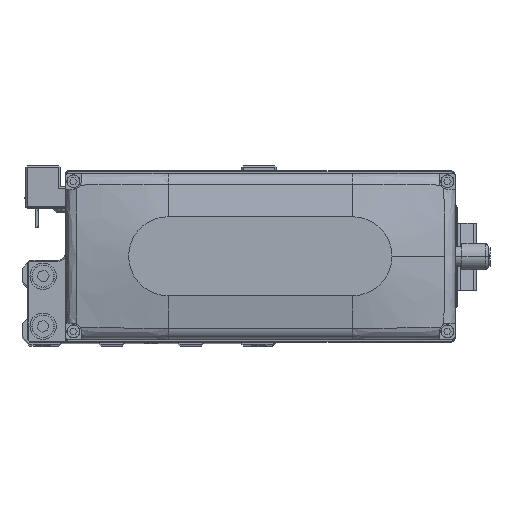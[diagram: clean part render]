
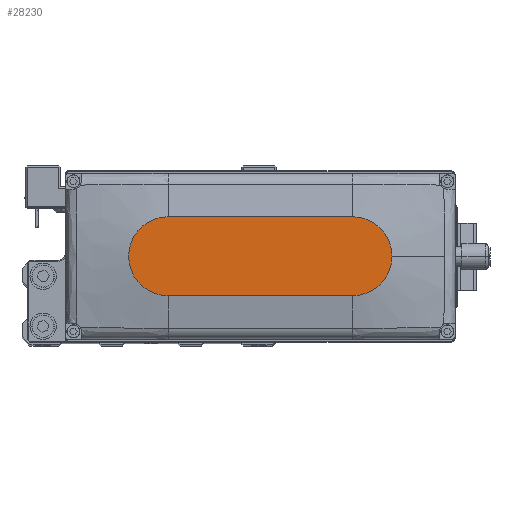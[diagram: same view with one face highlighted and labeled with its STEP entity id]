
A CAD part, top view. The second image highlights one B-rep face of the part: STEP entity #28230.
In plain terms, the highlighted planar face has unit normal (0, 0, 1).
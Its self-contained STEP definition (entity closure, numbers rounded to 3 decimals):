
#181 = CARTESIAN_POINT ( 'NONE',  ( 35., -15., 35. ) ) ;
#986 = CARTESIAN_POINT ( 'NONE',  ( -35., 0., 35. ) ) ;
#1461 = CIRCLE ( 'NONE', #28919, 15. ) ;
#1807 = PLANE ( 'NONE',  #7986 ) ;
#3613 = EDGE_CURVE ( 'NONE', #35800, #31461, #4054, .T. ) ;
#3981 = CARTESIAN_POINT ( 'NONE',  ( 35., 0., 35. ) ) ;
#4054 = LINE ( 'NONE', #16256, #12077 ) ;
#4974 = DIRECTION ( 'NONE',  ( 0., 0., 1. ) ) ;
#5196 = EDGE_LOOP ( 'NONE', ( #26256, #7846, #28002, #24498, #33686 ) ) ;
#7294 = AXIS2_PLACEMENT_3D ( 'NONE', #3981, #16183, #28385 ) ;
#7485 = CARTESIAN_POINT ( 'NONE',  ( -35., -15., 35. ) ) ;
#7846 = ORIENTED_EDGE ( 'NONE', *, *, #12214, .T. ) ;
#7986 = AXIS2_PLACEMENT_3D ( 'NONE', #14016, #26193, #38437 ) ;
#9236 = CARTESIAN_POINT ( 'NONE',  ( -35., 15., 35. ) ) ;
#9398 = EDGE_CURVE ( 'NONE', #14077, #23232, #24549, .T. ) ;
#10058 = VERTEX_POINT ( 'NONE', #28459 ) ;
#11108 = EDGE_CURVE ( 'NONE', #31461, #14077, #1461, .T. ) ;
#12077 = VECTOR ( 'NONE', #28448, 1000. ) ;
#12214 = EDGE_CURVE ( 'NONE', #10058, #35800, #33487, .T. ) ;
#13191 = DIRECTION ( 'NONE',  ( 0., 0., 1. ) ) ;
#14016 = CARTESIAN_POINT ( 'NONE',  ( 0., 0., 35. ) ) ;
#14077 = VERTEX_POINT ( 'NONE', #17051 ) ;
#14292 = EDGE_CURVE ( 'NONE', #23232, #10058, #36655, .T. ) ;
#16183 = DIRECTION ( 'NONE',  ( 0., 0., 1. ) ) ;
#16224 = AXIS2_PLACEMENT_3D ( 'NONE', #986, #13191, #25372 ) ;
#16256 = CARTESIAN_POINT ( 'NONE',  ( -35., -15., 35. ) ) ;
#17051 = CARTESIAN_POINT ( 'NONE',  ( 50., 0., 35. ) ) ;
#17160 = DIRECTION ( 'NONE',  ( 1., 0., 0. ) ) ;
#21431 = DIRECTION ( 'NONE',  ( -1., 0., 0. ) ) ;
#23232 = VERTEX_POINT ( 'NONE', #26709 ) ;
#24498 = ORIENTED_EDGE ( 'NONE', *, *, #11108, .T. ) ;
#24549 = CIRCLE ( 'NONE', #7294, 15. ) ;
#25372 = DIRECTION ( 'NONE',  ( 1., 0., 0. ) ) ;
#26193 = DIRECTION ( 'NONE',  ( 0., 0., 1. ) ) ;
#26256 = ORIENTED_EDGE ( 'NONE', *, *, #14292, .T. ) ;
#26709 = CARTESIAN_POINT ( 'NONE',  ( 35., 15., 35. ) ) ;
#28002 = ORIENTED_EDGE ( 'NONE', *, *, #3613, .T. ) ;
#28230 = ADVANCED_FACE ( 'NONE', ( #29206 ), #1807, .T. ) ;
#28385 = DIRECTION ( 'NONE',  ( 1., 0., 0. ) ) ;
#28448 = DIRECTION ( 'NONE',  ( 1., 0., 0. ) ) ;
#28459 = CARTESIAN_POINT ( 'NONE',  ( -35., 15., 35. ) ) ;
#28919 = AXIS2_PLACEMENT_3D ( 'NONE', #32373, #4974, #17160 ) ;
#29206 = FACE_OUTER_BOUND ( 'NONE', #5196, .T. ) ;
#31059 = VECTOR ( 'NONE', #21431, 1000. ) ;
#31461 = VERTEX_POINT ( 'NONE', #181 ) ;
#32373 = CARTESIAN_POINT ( 'NONE',  ( 35., 0., 35. ) ) ;
#33487 = CIRCLE ( 'NONE', #16224, 15. ) ;
#33686 = ORIENTED_EDGE ( 'NONE', *, *, #9398, .T. ) ;
#35800 = VERTEX_POINT ( 'NONE', #7485 ) ;
#36655 = LINE ( 'NONE', #9236, #31059 ) ;
#38437 = DIRECTION ( 'NONE',  ( 1., 0., 0. ) ) ;
